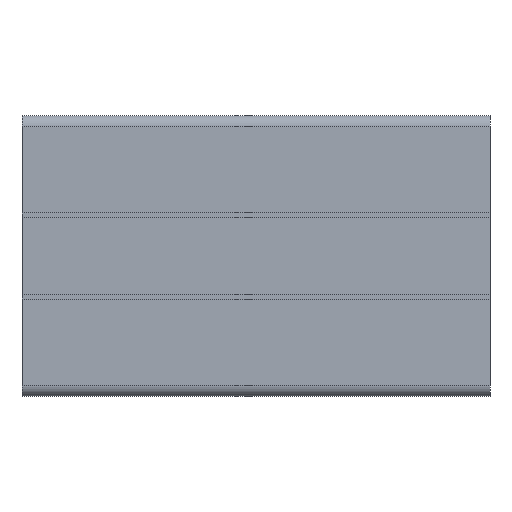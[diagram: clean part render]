
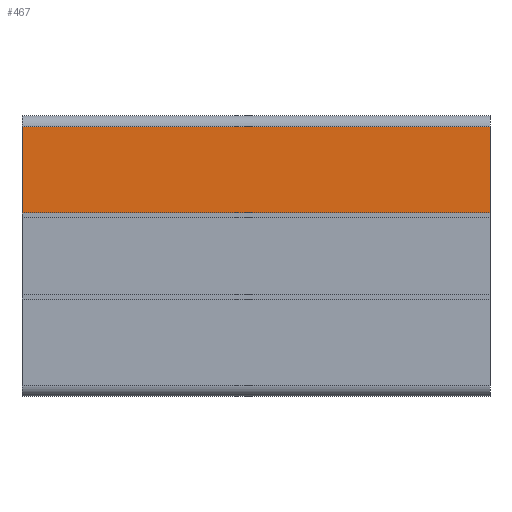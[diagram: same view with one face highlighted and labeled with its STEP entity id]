
A CAD part, front view. The second image highlights one B-rep face of the part: STEP entity #467.
In plain terms, the highlighted planar face has unit normal (0, -1, 0).
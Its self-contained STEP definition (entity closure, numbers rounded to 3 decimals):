
#355=VERTEX_POINT('',#1025);
#399=EDGE_CURVE('',#423,#355,#1070,.T.);
#423=VERTEX_POINT('',#1094);
#447=VERTEX_POINT('',#1122);
#467=ADVANCED_FACE('',(#1143),#1144,.T.);
#731=EDGE_CURVE('',#947,#423,#1432,.T.);
#745=EDGE_CURVE('',#947,#447,#1447,.T.);
#845=EDGE_CURVE('',#355,#447,#1559,.T.);
#947=VERTEX_POINT('',#1669);
#1025=CARTESIAN_POINT('',(50.0,0.,4.6));
#1070=LINE('',#1814,#1815);
#1094=CARTESIAN_POINT('',(0.0,0.,4.6));
#1122=CARTESIAN_POINT('',(50.0,0.,13.8));
#1143=FACE_OUTER_BOUND('',#1924,.T.);
#1144=PLANE('',#1925);
#1432=LINE('',#2330,#2331);
#1447=LINE('',#2351,#2352);
#1559=LINE('',#2501,#2502);
#1669=CARTESIAN_POINT('',(0.0,0.,13.8));
#1814=CARTESIAN_POINT('',(0.0,0.,4.6));
#1815=VECTOR('',#2782,1.0);
#1924=EDGE_LOOP('',(#2889,#2890,#2891,#2892));
#1925=AXIS2_PLACEMENT_3D('',#2893,#2894,#2895);
#2330=CARTESIAN_POINT('',(0.0,0.,13.8));
#2331=VECTOR('',#3166,1.0);
#2351=CARTESIAN_POINT('',(0.0,0.,13.8));
#2352=VECTOR('',#3177,1.0);
#2501=CARTESIAN_POINT('',(50.0,0.,13.8));
#2502=VECTOR('',#3338,1.0);
#2782=DIRECTION('',(1.0,0.0,0.0));
#2889=ORIENTED_EDGE('',*,*,#845,.T.);
#2890=ORIENTED_EDGE('',*,*,#745,.F.);
#2891=ORIENTED_EDGE('',*,*,#731,.T.);
#2892=ORIENTED_EDGE('',*,*,#399,.T.);
#2893=CARTESIAN_POINT('',(0.0,0.,4.6));
#2894=DIRECTION('',(0.0,-1.0,0.0));
#2895=DIRECTION('',(0.0,0.0,-1.0));
#3166=DIRECTION('',(0.0,0.0,-1.0));
#3177=DIRECTION('',(1.0,0.0,0.0));
#3338=DIRECTION('',(0.0,0.0,1.0));
